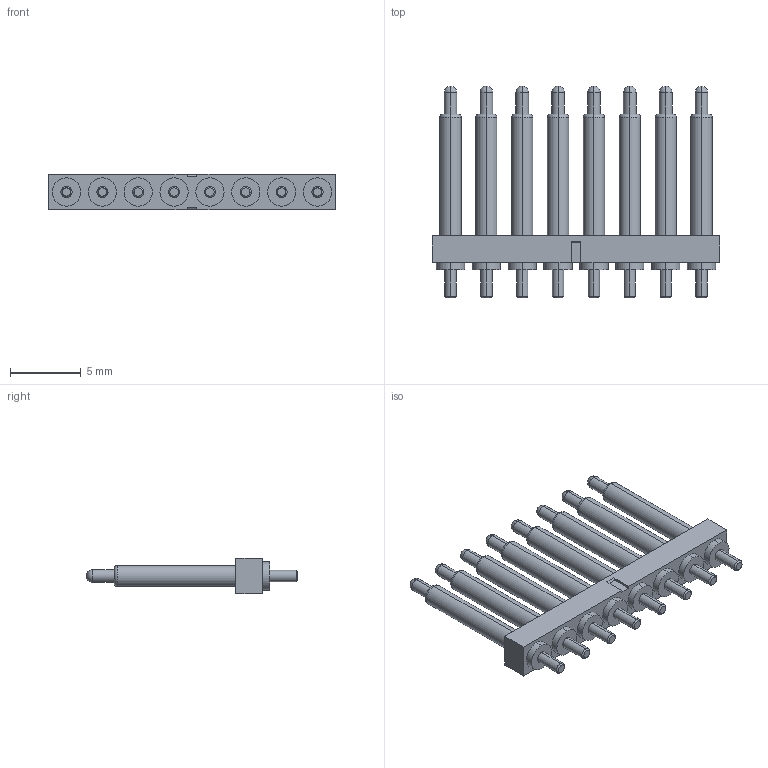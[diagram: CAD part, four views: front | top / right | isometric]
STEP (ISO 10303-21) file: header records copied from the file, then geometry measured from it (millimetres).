
FILE_DESCRIPTION((''),'2;1');
FILE_NAME('ASM0001_ASM','2021-11-02T16:18:10',('Administrator'),(''),'CREO PARAMETRIC BY PTC INC, 2018400','CREO PARAMETRIC BY PTC INC, 2018400','');
FILE_SCHEMA(('CONFIG_CONTROL_DESIGN'));
Length unit declared in the file: millimetre
Products named in the file (3): 8P-2_54PH-1_9H000; NC3872-01PA; ASM0001_ASM
Assembly tree (9 placements, depth 2):
  ASM0001_ASM
    8P-2_54PH-1_9H000
    NC3872-01PA  x8
Bounding box: 20.35 x 15 x 2.5 mm (x, y, z)
Volume: 247 mm3; surface area: 781 mm2
Topology: 9 solids, 9 shells, 230 faces, 484 edges, 288 vertices
Faces by surface type: cylinder 112, plane 54, cone 32, torus 16, sphere 16
Entity records: 1794 total; most frequent: DIRECTION 330, CARTESIAN_POINT 284, ORIENTED_EDGE 264, EDGE_CURVE 132, AXIS2_PLACEMENT_3D 131, VERTEX_POINT 85, EDGE_LOOP 75, VECTOR 68
